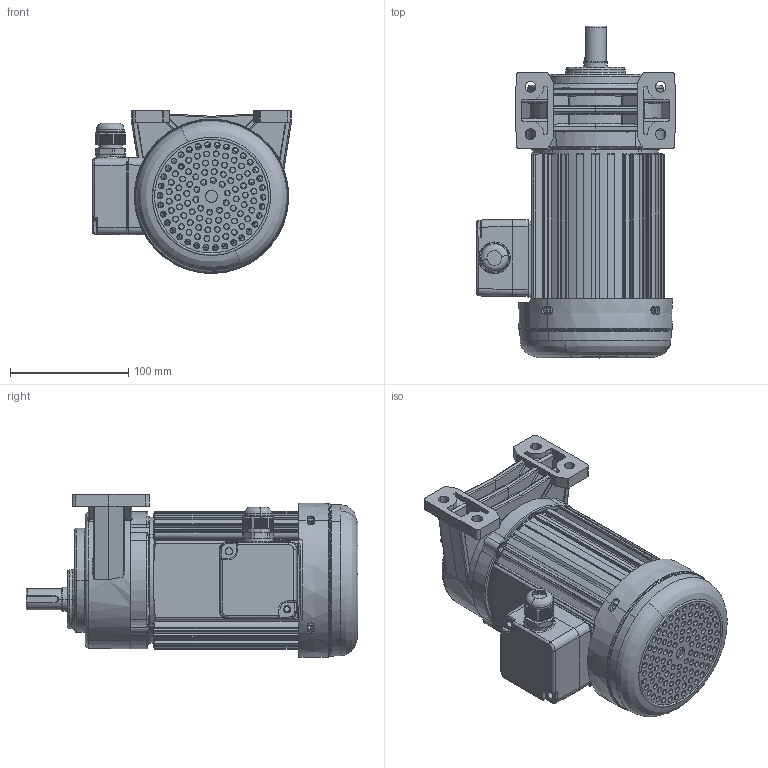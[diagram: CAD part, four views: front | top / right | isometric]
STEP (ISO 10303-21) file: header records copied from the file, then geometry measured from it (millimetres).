
FILE_DESCRIPTION (( 'STEP AP203' ), '1' );
FILE_NAME ('200W配1#卧式.STEP', '2019-06-19T03:46:43', ( '微软中国' ), ( '微软用户' ), 'SwSTEP 2.0', 'SolidWorks 2012', '' );
FILE_SCHEMA (( 'CONFIG_CONTROL_DESIGN' ));
Products named in the file (10): 200W饜1#拏宒; 1#拏宒熬厒ん; 1xgx; 200W 儂褲2; 坶踡ん 蚾饜; 苤諉盄碟 裔; 苤諉盄碟釱; 釱菜; 100W瑞欶; 100W綴傷裔 2_25
Assembly tree (9 placements, depth 2):
  200W饜1#拏宒
    100W綴傷裔 2_25
    100W瑞欶
    釱菜
    苤諉盄碟釱
    苤諉盄碟 裔
    坶踡ん 蚾饜
    200W 儂褲2
    1xgx
    1#拏宒熬厒ん
Bounding box: 167.96 x 280.37 x 137.74 mm (x, y, z)
Volume: 1341031.3 mm3; surface area: 446247.8 mm2
Topology: 7 solids, 11 shells, 2896 faces, 7510 edges, 4659 vertices
Faces by surface type: bspline 903, cylinder 840, plane 688, torus 219, cone 156, sphere 90
Entity records: 136129 total; most frequent: CARTESIAN_POINT 71534, ORIENTED_EDGE 14842, DIRECTION 10908, EDGE_CURVE 7451, VERTEX_POINT 4659, AXIS2_PLACEMENT_3D 4258, EDGE_LOOP 3285, FACE_OUTER_BOUND 2896
